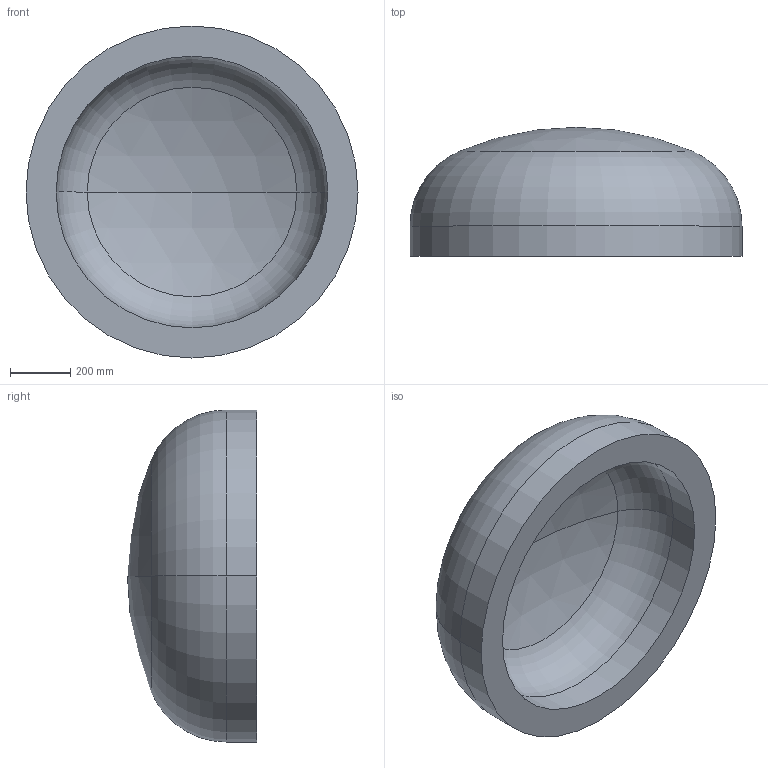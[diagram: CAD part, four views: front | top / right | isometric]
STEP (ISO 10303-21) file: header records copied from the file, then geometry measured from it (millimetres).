
FILE_DESCRIPTION (( 'STEP AP203' ), '1' );
FILE_NAME ('DIN 28013 Korbbogenform_-_Boden DIN 28013 - 1100 x 100 - I - s=100.step', '2016-07-01T09:16:11', ( '' ), ( '' ), 'SwSTEP 2.0', 'SolidWorks 2013', '' );
FILE_SCHEMA (( 'CONFIG_CONTROL_DESIGN' ));
Length unit declared in the file: millimetre
Products named in the file (1): DIN 28013 Korbbogenform_-_Boden DIN 28013 - 1100 x 100 - I - s=100
Bounding box: 1100 x 427.54 x 1100 mm (x, y, z)
Volume: 149035664.2 mm3; surface area: 3315816 mm2
Topology: 1 solids, 1 shells, 13 faces, 24 edges, 14 vertices
Faces by surface type: torus 4, cylinder 4, sphere 4, plane 1
Entity records: 407 total; most frequent: DIRECTION 72, CARTESIAN_POINT 52, ORIENTED_EDGE 48, AXIS2_PLACEMENT_3D 34, EDGE_CURVE 24, CIRCLE 20, VERTEX_POINT 14, EDGE_LOOP 14
